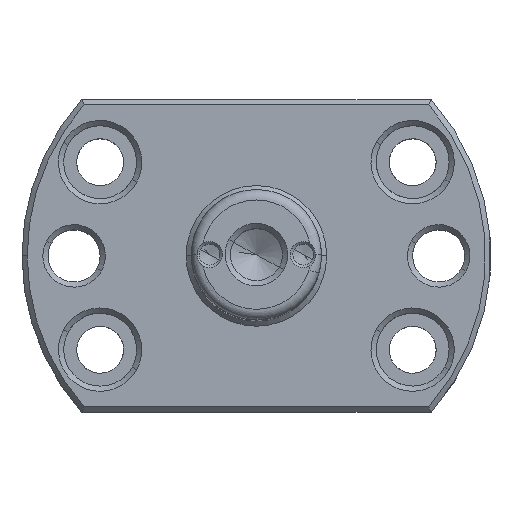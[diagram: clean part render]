
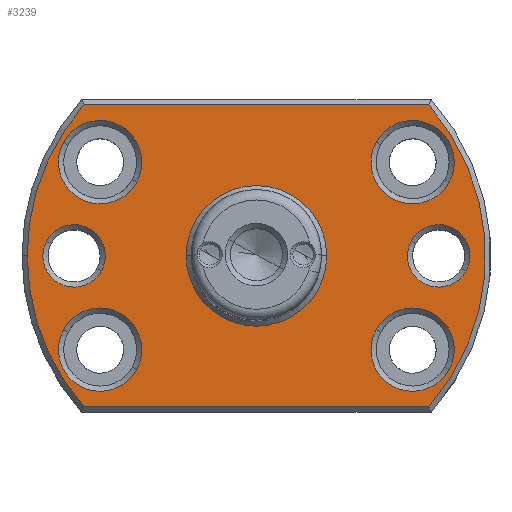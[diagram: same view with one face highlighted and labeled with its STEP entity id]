
A CAD part, top view. The second image highlights one B-rep face of the part: STEP entity #3239.
In plain terms, the highlighted planar face has unit normal (0, 0, 1).
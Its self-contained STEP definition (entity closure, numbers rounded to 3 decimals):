
#2434=CARTESIAN_POINT('Line Origine',(-0.528,29.,105.)) ;
#2438=CARTESIAN_POINT('Vertex',(33.091,29.,105.)) ;
#2440=CARTESIAN_POINT('Vertex',(-33.091,29.,105.)) ;
#2472=CARTESIAN_POINT('Vertex',(-33.091,-29.,105.)) ;
#2475=CARTESIAN_POINT('Axis2P3D Location',(0.,0.,105.)) ;
#2479=CARTESIAN_POINT('Vertex',(-44.,0.,105.)) ;
#2499=CARTESIAN_POINT('Axis2P3D Location',(0.,0.,105.)) ;
#2516=CARTESIAN_POINT('Line Origine',(-0.528,-29.,105.)) ;
#2520=CARTESIAN_POINT('Vertex',(33.091,-29.,105.)) ;
#2541=CARTESIAN_POINT('Axis2P3D Location',(0.,0.,105.)) ;
#2618=CARTESIAN_POINT('Vertex',(13.5,0.,105.)) ;
#2621=CARTESIAN_POINT('Axis2P3D Location',(0.,0.,105.)) ;
#2625=CARTESIAN_POINT('Vertex',(-13.5,0.,105.)) ;
#2645=CARTESIAN_POINT('Axis2P3D Location',(0.,0.,105.)) ;
#2714=CARTESIAN_POINT('Vertex',(-37.021,21.835,105.)) ;
#2717=CARTESIAN_POINT('Axis2P3D Location',(-30.,18.,105.)) ;
#2721=CARTESIAN_POINT('Vertex',(-22.979,14.165,105.)) ;
#2741=CARTESIAN_POINT('Axis2P3D Location',(-30.,18.,105.)) ;
#2810=CARTESIAN_POINT('Vertex',(37.021,14.165,105.)) ;
#2813=CARTESIAN_POINT('Axis2P3D Location',(30.,18.,105.)) ;
#2817=CARTESIAN_POINT('Vertex',(22.979,21.835,105.)) ;
#2837=CARTESIAN_POINT('Axis2P3D Location',(30.,18.,105.)) ;
#2906=CARTESIAN_POINT('Vertex',(37.021,-21.835,105.)) ;
#2909=CARTESIAN_POINT('Axis2P3D Location',(30.,-18.,105.)) ;
#2913=CARTESIAN_POINT('Vertex',(22.979,-14.165,105.)) ;
#2933=CARTESIAN_POINT('Axis2P3D Location',(30.,-18.,105.)) ;
#3002=CARTESIAN_POINT('Vertex',(-29.735,-2.877,105.)) ;
#3005=CARTESIAN_POINT('Axis2P3D Location',(-35.,0.,105.)) ;
#3009=CARTESIAN_POINT('Vertex',(-40.265,2.877,105.)) ;
#3029=CARTESIAN_POINT('Axis2P3D Location',(-35.,0.,105.)) ;
#3098=CARTESIAN_POINT('Vertex',(29.735,2.877,105.)) ;
#3101=CARTESIAN_POINT('Axis2P3D Location',(35.,0.,105.)) ;
#3105=CARTESIAN_POINT('Vertex',(40.265,-2.877,105.)) ;
#3125=CARTESIAN_POINT('Axis2P3D Location',(35.,0.,105.)) ;
#3185=CARTESIAN_POINT('Axis2P3D Location',(0.,0.,105.)) ;
#3197=CARTESIAN_POINT('Axis2P3D Location',(-30.,-18.,105.)) ;
#3201=CARTESIAN_POINT('Vertex',(-37.021,-14.165,105.)) ;
#3203=CARTESIAN_POINT('Vertex',(-22.979,-21.835,105.)) ;
#3206=CARTESIAN_POINT('Axis2P3D Location',(-30.,-18.,105.)) ;
#2435=DIRECTION('Vector Direction',(-1.,0.,0.)) ;
#2476=DIRECTION('Axis2P3D Direction',(0.,0.,1.)) ;
#2500=DIRECTION('Axis2P3D Direction',(0.,0.,1.)) ;
#2517=DIRECTION('Vector Direction',(1.,0.,0.)) ;
#2542=DIRECTION('Axis2P3D Direction',(0.,0.,1.)) ;
#2622=DIRECTION('Axis2P3D Direction',(0.,0.,1.)) ;
#2646=DIRECTION('Axis2P3D Direction',(0.,0.,1.)) ;
#2718=DIRECTION('Axis2P3D Direction',(0.,0.,1.)) ;
#2742=DIRECTION('Axis2P3D Direction',(0.,0.,1.)) ;
#2814=DIRECTION('Axis2P3D Direction',(0.,0.,1.)) ;
#2838=DIRECTION('Axis2P3D Direction',(0.,0.,1.)) ;
#2910=DIRECTION('Axis2P3D Direction',(0.,0.,1.)) ;
#2934=DIRECTION('Axis2P3D Direction',(0.,0.,1.)) ;
#3006=DIRECTION('Axis2P3D Direction',(0.,0.,1.)) ;
#3030=DIRECTION('Axis2P3D Direction',(0.,0.,1.)) ;
#3102=DIRECTION('Axis2P3D Direction',(0.,0.,1.)) ;
#3126=DIRECTION('Axis2P3D Direction',(0.,0.,1.)) ;
#3186=DIRECTION('Axis2P3D Direction',(0.,0.,1.)) ;
#3187=DIRECTION('Axis2P3D XDirection',(-1.,0.,0.)) ;
#3198=DIRECTION('Axis2P3D Direction',(0.,0.,1.)) ;
#3207=DIRECTION('Axis2P3D Direction',(0.,0.,1.)) ;
#2477=AXIS2_PLACEMENT_3D('Circle Axis2P3D',#2475,#2476,$) ;
#2501=AXIS2_PLACEMENT_3D('Circle Axis2P3D',#2499,#2500,$) ;
#2543=AXIS2_PLACEMENT_3D('Circle Axis2P3D',#2541,#2542,$) ;
#2623=AXIS2_PLACEMENT_3D('Circle Axis2P3D',#2621,#2622,$) ;
#2647=AXIS2_PLACEMENT_3D('Circle Axis2P3D',#2645,#2646,$) ;
#2719=AXIS2_PLACEMENT_3D('Circle Axis2P3D',#2717,#2718,$) ;
#2743=AXIS2_PLACEMENT_3D('Circle Axis2P3D',#2741,#2742,$) ;
#2815=AXIS2_PLACEMENT_3D('Circle Axis2P3D',#2813,#2814,$) ;
#2839=AXIS2_PLACEMENT_3D('Circle Axis2P3D',#2837,#2838,$) ;
#2911=AXIS2_PLACEMENT_3D('Circle Axis2P3D',#2909,#2910,$) ;
#2935=AXIS2_PLACEMENT_3D('Circle Axis2P3D',#2933,#2934,$) ;
#3007=AXIS2_PLACEMENT_3D('Circle Axis2P3D',#3005,#3006,$) ;
#3031=AXIS2_PLACEMENT_3D('Circle Axis2P3D',#3029,#3030,$) ;
#3103=AXIS2_PLACEMENT_3D('Circle Axis2P3D',#3101,#3102,$) ;
#3127=AXIS2_PLACEMENT_3D('Circle Axis2P3D',#3125,#3126,$) ;
#3188=AXIS2_PLACEMENT_3D('Plane Axis2P3D',#3185,#3186,#3187) ;
#3199=AXIS2_PLACEMENT_3D('Circle Axis2P3D',#3197,#3198,$) ;
#3208=AXIS2_PLACEMENT_3D('Circle Axis2P3D',#3206,#3207,$) ;
#3191=ORIENTED_EDGE('',*,*,#2481,.T.) ;
#3192=ORIENTED_EDGE('',*,*,#2522,.T.) ;
#3193=ORIENTED_EDGE('',*,*,#2545,.T.) ;
#3194=ORIENTED_EDGE('',*,*,#2442,.T.) ;
#3195=ORIENTED_EDGE('',*,*,#2503,.T.) ;
#3212=ORIENTED_EDGE('',*,*,#3205,.F.) ;
#3213=ORIENTED_EDGE('',*,*,#3210,.F.) ;
#3216=ORIENTED_EDGE('',*,*,#3129,.F.) ;
#3217=ORIENTED_EDGE('',*,*,#3107,.F.) ;
#3220=ORIENTED_EDGE('',*,*,#3033,.F.) ;
#3221=ORIENTED_EDGE('',*,*,#3011,.F.) ;
#3224=ORIENTED_EDGE('',*,*,#2937,.F.) ;
#3225=ORIENTED_EDGE('',*,*,#2915,.F.) ;
#3228=ORIENTED_EDGE('',*,*,#2841,.F.) ;
#3229=ORIENTED_EDGE('',*,*,#2819,.F.) ;
#3232=ORIENTED_EDGE('',*,*,#2745,.F.) ;
#3233=ORIENTED_EDGE('',*,*,#2723,.F.) ;
#3236=ORIENTED_EDGE('',*,*,#2649,.T.) ;
#3237=ORIENTED_EDGE('',*,*,#2627,.T.) ;
#3214=FACE_BOUND('',#3211,.T.) ;
#3218=FACE_BOUND('',#3215,.T.) ;
#3222=FACE_BOUND('',#3219,.T.) ;
#3226=FACE_BOUND('',#3223,.T.) ;
#3230=FACE_BOUND('',#3227,.T.) ;
#3234=FACE_BOUND('',#3231,.T.) ;
#3238=FACE_BOUND('',#3235,.T.) ;
#2436=VECTOR('Line Direction',#2435,1.) ;
#2518=VECTOR('Line Direction',#2517,1.) ;
#3239=ADVANCED_FACE('',(#3196,#3214,#3218,#3222,#3226,#3230,#3234,#3238),#3189,.T.) ;
#2478=CIRCLE('generated circle',#2477,44.) ;
#2502=CIRCLE('generated circle',#2501,44.) ;
#2544=CIRCLE('generated circle',#2543,44.) ;
#2624=CIRCLE('generated circle',#2623,13.5) ;
#2648=CIRCLE('generated circle',#2647,13.5) ;
#2720=CIRCLE('generated circle',#2719,8.) ;
#2744=CIRCLE('generated circle',#2743,8.) ;
#2816=CIRCLE('generated circle',#2815,8.) ;
#2840=CIRCLE('generated circle',#2839,8.) ;
#2912=CIRCLE('generated circle',#2911,8.) ;
#2936=CIRCLE('generated circle',#2935,8.) ;
#3008=CIRCLE('generated circle',#3007,6.) ;
#3032=CIRCLE('generated circle',#3031,6.) ;
#3104=CIRCLE('generated circle',#3103,6.) ;
#3128=CIRCLE('generated circle',#3127,6.) ;
#3200=CIRCLE('generated circle',#3199,8.) ;
#3209=CIRCLE('generated circle',#3208,8.) ;
#2442=EDGE_CURVE('',#2439,#2441,#2437,.T.) ;
#2481=EDGE_CURVE('',#2480,#2473,#2478,.T.) ;
#2503=EDGE_CURVE('',#2441,#2480,#2502,.T.) ;
#2522=EDGE_CURVE('',#2473,#2521,#2519,.T.) ;
#2545=EDGE_CURVE('',#2521,#2439,#2544,.T.) ;
#2627=EDGE_CURVE('',#2626,#2619,#2624,.F.) ;
#2649=EDGE_CURVE('',#2619,#2626,#2648,.F.) ;
#2723=EDGE_CURVE('',#2715,#2722,#2720,.T.) ;
#2745=EDGE_CURVE('',#2722,#2715,#2744,.T.) ;
#2819=EDGE_CURVE('',#2811,#2818,#2816,.T.) ;
#2841=EDGE_CURVE('',#2818,#2811,#2840,.T.) ;
#2915=EDGE_CURVE('',#2907,#2914,#2912,.T.) ;
#2937=EDGE_CURVE('',#2914,#2907,#2936,.T.) ;
#3011=EDGE_CURVE('',#3003,#3010,#3008,.T.) ;
#3033=EDGE_CURVE('',#3010,#3003,#3032,.T.) ;
#3107=EDGE_CURVE('',#3099,#3106,#3104,.T.) ;
#3129=EDGE_CURVE('',#3106,#3099,#3128,.T.) ;
#3205=EDGE_CURVE('',#3202,#3204,#3200,.T.) ;
#3210=EDGE_CURVE('',#3204,#3202,#3209,.T.) ;
#3190=EDGE_LOOP('',(#3191,#3192,#3193,#3194,#3195)) ;
#3211=EDGE_LOOP('',(#3212,#3213)) ;
#3215=EDGE_LOOP('',(#3216,#3217)) ;
#3219=EDGE_LOOP('',(#3220,#3221)) ;
#3223=EDGE_LOOP('',(#3224,#3225)) ;
#3227=EDGE_LOOP('',(#3228,#3229)) ;
#3231=EDGE_LOOP('',(#3232,#3233)) ;
#3235=EDGE_LOOP('',(#3236,#3237)) ;
#3196=FACE_OUTER_BOUND('',#3190,.T.) ;
#2437=LINE('Line',#2434,#2436) ;
#2519=LINE('Line',#2516,#2518) ;
#3189=PLANE('Plane',#3188) ;
#2439=VERTEX_POINT('',#2438) ;
#2441=VERTEX_POINT('',#2440) ;
#2473=VERTEX_POINT('',#2472) ;
#2480=VERTEX_POINT('',#2479) ;
#2521=VERTEX_POINT('',#2520) ;
#2619=VERTEX_POINT('',#2618) ;
#2626=VERTEX_POINT('',#2625) ;
#2715=VERTEX_POINT('',#2714) ;
#2722=VERTEX_POINT('',#2721) ;
#2811=VERTEX_POINT('',#2810) ;
#2818=VERTEX_POINT('',#2817) ;
#2907=VERTEX_POINT('',#2906) ;
#2914=VERTEX_POINT('',#2913) ;
#3003=VERTEX_POINT('',#3002) ;
#3010=VERTEX_POINT('',#3009) ;
#3099=VERTEX_POINT('',#3098) ;
#3106=VERTEX_POINT('',#3105) ;
#3202=VERTEX_POINT('',#3201) ;
#3204=VERTEX_POINT('',#3203) ;
